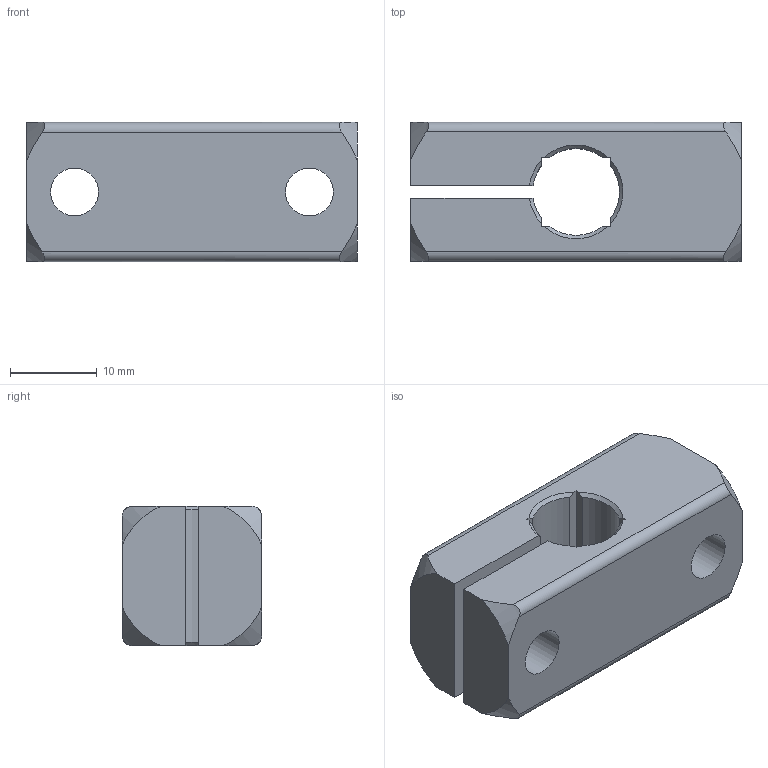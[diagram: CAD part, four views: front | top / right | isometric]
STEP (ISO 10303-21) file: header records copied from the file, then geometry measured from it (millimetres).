
FILE_DESCRIPTION( ( 'STEP AP203' ), '1' );
FILE_NAME( 'C:/Temp/Ganter_Step_05_03_2020/data/3_7/gn_477/Clamp mounting GN 477-B10-ELS.stp', '2020-03-12T14:46:05', ( 'License CC BY-ND 4.0' ), ( 'CADENAS' ), ' ', 'PARTsolutions', ' ' );
FILE_SCHEMA( ( 'CONFIG_CONTROL_DESIGN' ) );
Length unit declared in the file: millimetre
Products named in the file (1): _Clamp mounting GN 477-B10-ELS
Bounding box: 38 x 16 x 16 mm (x, y, z)
Volume: 6857.8 mm3; surface area: 4055 mm2
Topology: 1 solids, 1 shells, 51 faces, 142 edges, 95 vertices
Faces by surface type: plane 19, cone 18, cylinder 14
Full cylindrical faces by diameter (mm): 5.5 x3, 9 x2
Entity records: 1804 total; most frequent: CARTESIAN_POINT 510, ORIENTED_EDGE 272, DIRECTION 234, EDGE_CURVE 136, VERTEX_POINT 94, AXIS2_PLACEMENT_3D 90, EDGE_LOOP 64, FACE_OUTER_BOUND 56
